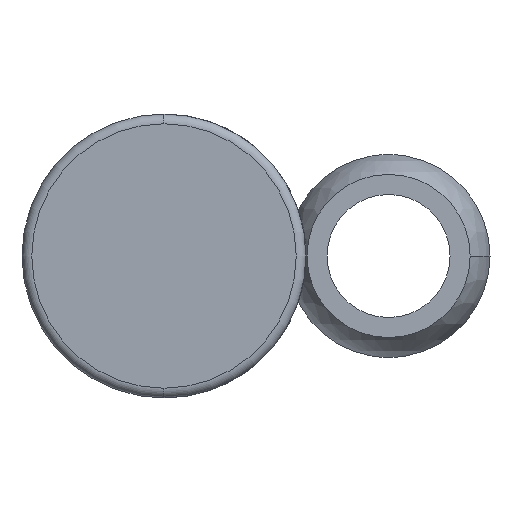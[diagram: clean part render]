
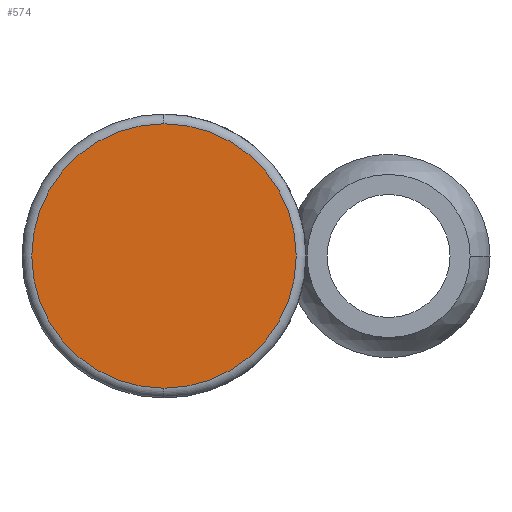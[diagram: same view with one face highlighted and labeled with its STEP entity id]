
A CAD part, front view. The second image highlights one B-rep face of the part: STEP entity #574.
In plain terms, the highlighted planar face has unit normal (0, -1, 0).
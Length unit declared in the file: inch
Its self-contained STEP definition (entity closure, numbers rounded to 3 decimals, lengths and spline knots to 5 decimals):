
#22 = ORIENTED_EDGE ( 'NONE', *, *, #1187, .T. ) ;
#68 = CIRCLE ( 'NONE', #343, 0.4075 ) ;
#79 = DIRECTION ( 'NONE',  ( 0., 0., 1. ) ) ;
#85 = DIRECTION ( 'NONE',  ( 0., -1., 0. ) ) ;
#161 = CARTESIAN_POINT ( 'NONE',  ( 0., -1.5, 0. ) ) ;
#246 = DIRECTION ( 'NONE',  ( 0., -1., 0. ) ) ;
#300 = DIRECTION ( 'NONE',  ( 0., 0., 1. ) ) ;
#343 = AXIS2_PLACEMENT_3D ( 'NONE', #373, #85, #938 ) ;
#373 = CARTESIAN_POINT ( 'NONE',  ( 0., -1.5, 0. ) ) ;
#376 = FACE_OUTER_BOUND ( 'NONE', #669, .T. ) ;
#392 = DIRECTION ( 'NONE',  ( 0., 1., 0. ) ) ;
#415 = CARTESIAN_POINT ( 'NONE',  ( 0., -1.5, 0.4075 ) ) ;
#530 = CIRCLE ( 'NONE', #798, 0.4075 ) ;
#574 = ADVANCED_FACE ( 'NONE', ( #376 ), #1065, .F. ) ;
#597 = AXIS2_PLACEMENT_3D ( 'NONE', #970, #392, #300 ) ;
#669 = EDGE_LOOP ( 'NONE', ( #862, #22 ) ) ;
#798 = AXIS2_PLACEMENT_3D ( 'NONE', #161, #246, #79 ) ;
#826 = CARTESIAN_POINT ( 'NONE',  ( 0., -1.5, -0.4075 ) ) ;
#862 = ORIENTED_EDGE ( 'NONE', *, *, #876, .T. ) ;
#876 = EDGE_CURVE ( 'NONE', #1123, #1197, #68, .T. ) ;
#938 = DIRECTION ( 'NONE',  ( 0., 0., 1. ) ) ;
#970 = CARTESIAN_POINT ( 'NONE',  ( 0., -1.5, 0. ) ) ;
#1065 = PLANE ( 'NONE',  #597 ) ;
#1123 = VERTEX_POINT ( 'NONE', #415 ) ;
#1187 = EDGE_CURVE ( 'NONE', #1197, #1123, #530, .T. ) ;
#1197 = VERTEX_POINT ( 'NONE', #826 ) ;
